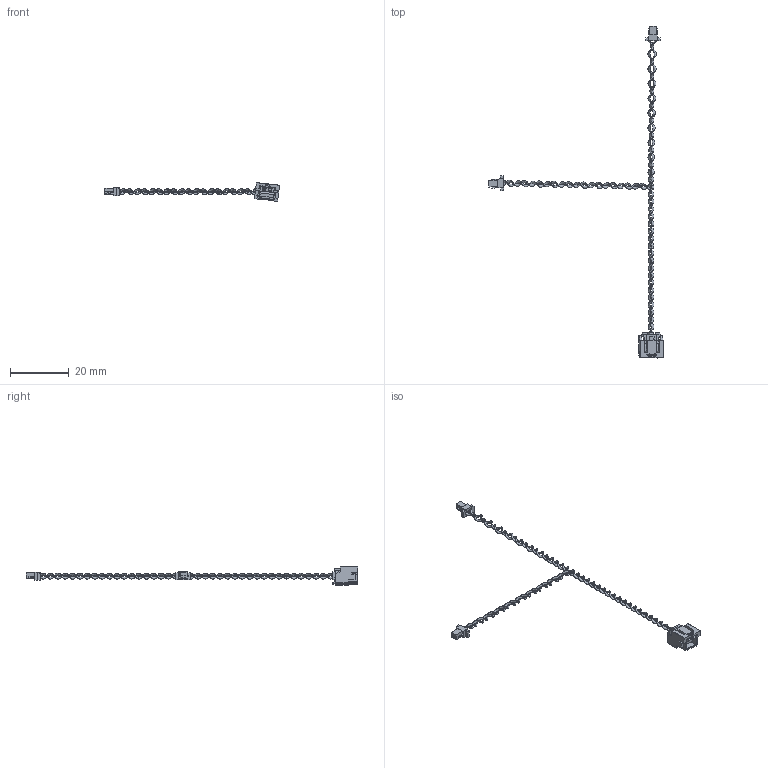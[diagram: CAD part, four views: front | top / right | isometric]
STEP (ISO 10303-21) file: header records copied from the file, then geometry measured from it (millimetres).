
FILE_DESCRIPTION((''),'2;1');
FILE_NAME('Y_XC_CP_H00279-01-SH1_0-2P-5CM__ASM','2024-06-04T22:04:14',('qinghui.yi'),(''),'CREO PARAMETRIC BY PTC INC, 2019164','CREO PARAMETRIC BY PTC INC, 2019164','');
FILE_SCHEMA(('CONFIG_CONTROL_DESIGN','SHAPE_APPEARANCE_LAYERS_GROUPS'));
Length unit declared in the file: millimetre
Products named in the file (8): PRT0001_1_1; PRT0001_1_2; PRT0001_1_ASM; ASM0001_ASM_1_ASM; USER_LIBRARY-CONNECTOR_-_JST_PH; PH2_0; JUMPER_CONNECTOR_SH1_IC006_1; Y_XC_CP_H00279-01-SH1_0-2P-5CM__ASM
Assembly tree (12 placements, depth 4):
  Y_XC_CP_H00279-01-SH1_0-2P-5CM__ASM
    ASM0001_ASM_1_ASM
      PRT0001_1_ASM
        PRT0001_1_1
        PRT0001_1_2
    USER_LIBRARY-CONNECTOR_-_JST_PH
    PH2_0
    PRT0001_1_2  x2
    PRT0001_1_1  x2
    JUMPER_CONNECTOR_SH1_IC006_1  x2
Bounding box: 59.3 x 112.55 x 6.35 mm (x, y, z)
Volume: 373.3 mm3; surface area: 1645.1 mm2
Topology: 10 solids, 10 shells, 528 faces, 1556 edges, 1124 vertices
Faces by surface type: plane 410, cylinder 54, bspline 46, torus 12, extrusion 6
Entity records: 21152 total; most frequent: CARTESIAN_POINT 8722, ORIENTED_EDGE 2564, DIRECTION 2090, EDGE_CURVE 1282, VECTOR 1050, LINE 1044, VERTEX_POINT 878, AXIS2_PLACEMENT_3D 520
